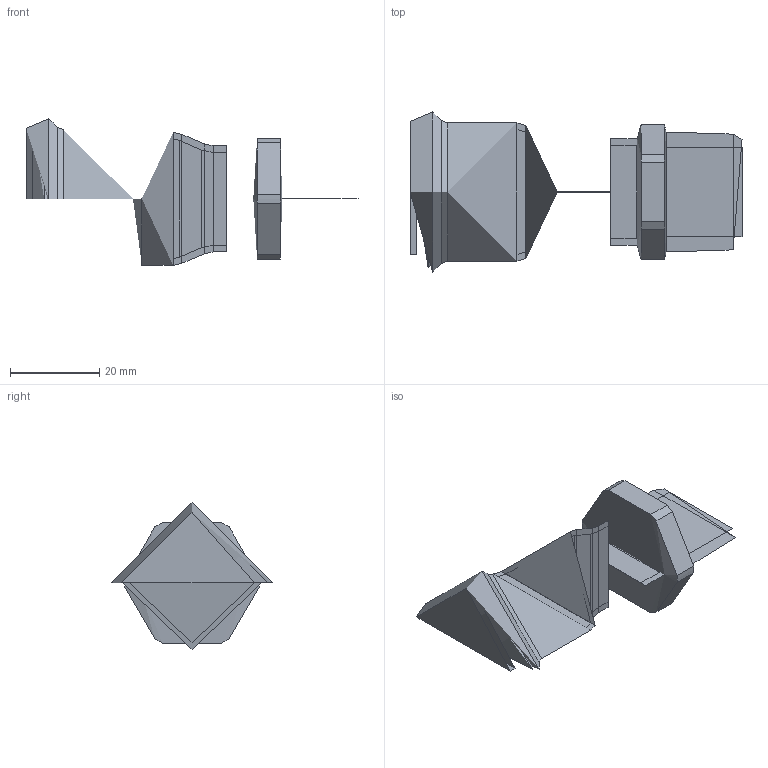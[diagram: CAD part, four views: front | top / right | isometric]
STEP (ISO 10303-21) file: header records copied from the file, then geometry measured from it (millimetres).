
FILE_DESCRIPTION(('FreeCAD Model'),'2;1');
FILE_NAME('Open CASCADE Shape Model','2025-10-20T15:01:27',('Author'),( ''),'Open CASCADE STEP processor 7.8','FreeCAD','Unknown');
FILE_SCHEMA(('AUTOMOTIVE_DESIGN { 1 0 10303 214 1 1 1 1 }'));
Length unit declared in the file: millimetre
Products named in the file (7): Unnamed161; COMPOUND; COMPOUND001; X-Achse; XY-Ebene; COMPOUND002; COMPOUND003
Assembly tree (18 placements, depth 3):
  Unnamed161
    COMPOUND
    COMPOUND001
      COMPOUND
    X-Achse  x6
    XY-Ebene  x6
    COMPOUND002
    COMPOUND003
      COMPOUND002
Bounding box: 74.5 x 35.94 x 32.87 mm (x, y, z)
Volume: 26277.4 mm3; surface area: 27841.3 mm2
Topology: 4 solids, 4 shells, 92 faces, 286 edges, 198 vertices
Faces by surface type: bspline 92
Entity records: 2280 total; most frequent: CARTESIAN_POINT 1338, ORIENTED_EDGE 280, EDGE_CURVE 140, VERTEX_POINT 99, FACE_BOUND 51, EDGE_LOOP 51, ADVANCED_FACE 46, DIRECTION 39
